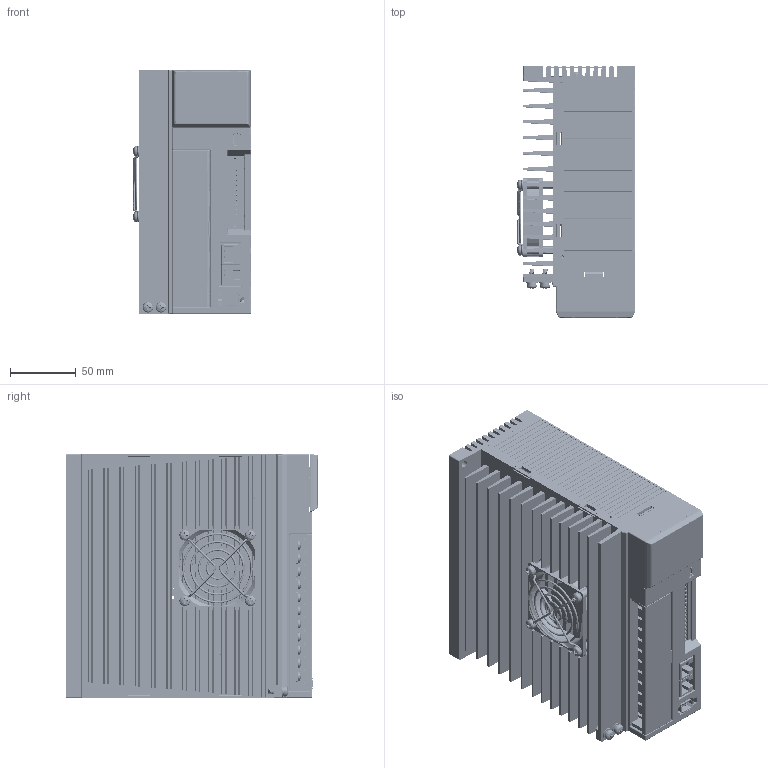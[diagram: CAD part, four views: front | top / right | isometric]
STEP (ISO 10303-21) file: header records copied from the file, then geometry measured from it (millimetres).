
FILE_DESCRIPTION(/* description */ (''),/* implementation_level */ '2;1');
FILE_NAME(/* name */ 'DS5C-21P0+21P5+22P3+22P6+41P0+41P5-PTA-官网图',/* time_stamp */ '2021-09-11T13:25:15+08:00',/* author */ (''),/* organization */ (''),/* preprocessor_version */ 'ST-DEVELOPER v15',/* originating_system */ '',/* authorisation */ '');
FILE_SCHEMA (('AUTOMOTIVE_DESIGN'));
Products named in the file (1): Document
Bounding box: 89.63 x 191.6 x 186.15 mm (x, y, z)
Surface area: 469542.7 mm2
Topology: 1 solids, 7064 shells, 7070 faces, 41376 edges, 41310 vertices
Faces by surface type: bspline 3743, plane 3327
Entity records: 525957 total; most frequent: CARTESIAN_POINT 311087, ORIENTED_EDGE 41339, EDGE_CURVE 41323, VERTEX_POINT 41314, B_SPLINE_CURVE_WITH_KNOTS 36634, EDGE_LOOP 7637, ADVANCED_FACE 7068, FACE_OUTER_BOUND 7068
